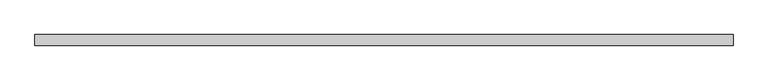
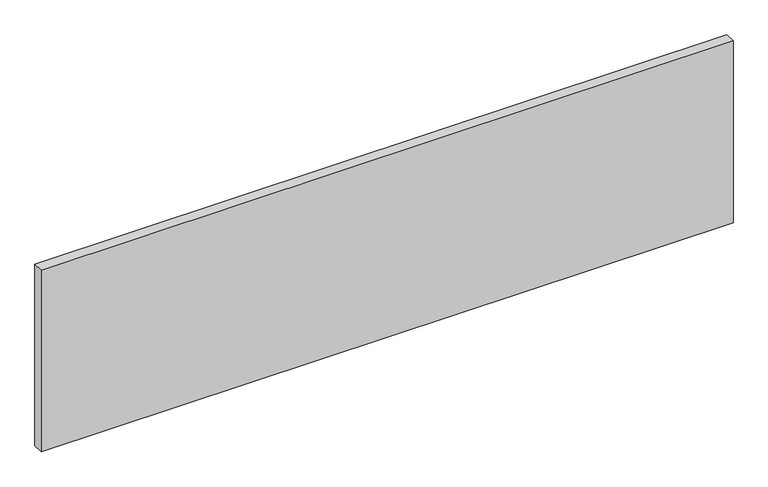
"""IFC4 building model written with IfcOpenShell, lengths in millimetres: plate geometry, 系统嵌板 : 玻璃."""

from ifc_helpers import new_model, si_unit, origin, origin_with_axes, place, context, project, spatial, polyline, outline, extrude, source, transform, mapped, element, save


def plate_3a9f7994(model_context):
    return source(origin(), model_context, "Body", "SweptSolid", [
        extrude(outline(polyline([(820.0, -12.5), (-820.0, -12.5), (-820.0, 12.5), (820.0, 12.5), (820.0, -12.5)])), origin_with_axes(), (0.0, 0.0, 1.0), 455.0),
    ])


if __name__ == "__main__":
    model = new_model("IFC4")
    model_context = context("Model", 3, world=origin())
    ifc_project = project(units=[si_unit("LENGTHUNIT", "METRE", prefix="MILLI")], contexts=[model_context])
    site = spatial("IfcSite", under=ifc_project)
    building = spatial("IfcBuilding", under=site)
    placement = place(None, origin())
    plate_shape = plate_3a9f7994(model_context)
    element("IfcPlate", 1, ObjectType="系统嵌板 : 玻璃", at=placement, inside=building, context=model_context, shape_type="MappedRepresentation", body=[
        mapped(plate_shape, transform((0.0, 0.0, 0.0), x_axis=(1.0, 0.0, 0.0), y_axis=(0.0, 1.0, 0.0), z_axis=(0.0, 0.0, 1.0))),
    ])
    save(model, "model.ifc")
